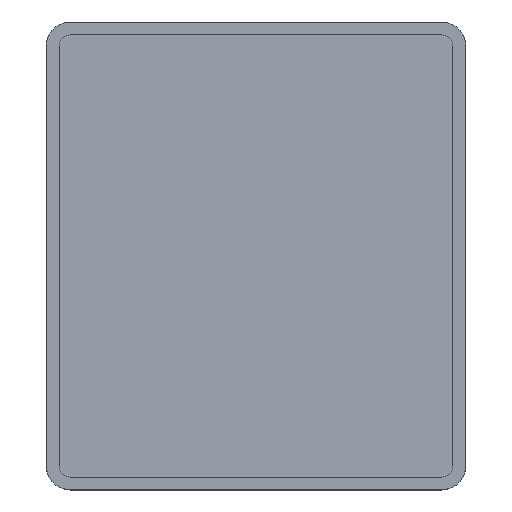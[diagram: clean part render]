
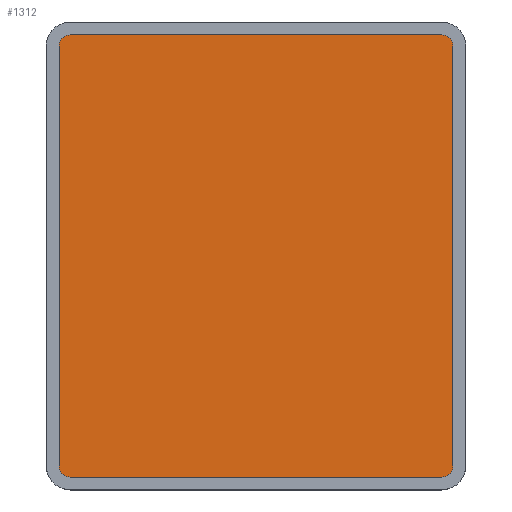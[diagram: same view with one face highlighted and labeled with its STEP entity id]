
A CAD part, top view. The second image highlights one B-rep face of the part: STEP entity #1312.
In plain terms, the highlighted planar face has unit normal (0, 0, 1).
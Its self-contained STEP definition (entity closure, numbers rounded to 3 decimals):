
#359 = CYLINDRICAL_SURFACE('',#360,0.7);
#360 = AXIS2_PLACEMENT_3D('',#361,#362,#363);
#361 = CARTESIAN_POINT('',(1.5,1.5,1.));
#362 = DIRECTION('',(0.,0.,1.));
#363 = DIRECTION('',(-1.,-0.,0.));
#386 = PLANE('',#387);
#387 = AXIS2_PLACEMENT_3D('',#388,#389,#390);
#388 = CARTESIAN_POINT('',(0.8,0.8,1.));
#389 = DIRECTION('',(1.,0.,0.));
#390 = DIRECTION('',(0.,0.,1.));
#414 = CYLINDRICAL_SURFACE('',#415,0.7);
#415 = AXIS2_PLACEMENT_3D('',#416,#417,#418);
#416 = CARTESIAN_POINT('',(1.5,27.6,1.));
#417 = DIRECTION('',(0.,0.,1.));
#418 = DIRECTION('',(-1.,-0.,0.));
#441 = PLANE('',#442);
#442 = AXIS2_PLACEMENT_3D('',#443,#444,#445);
#443 = CARTESIAN_POINT('',(0.8,28.3,1.));
#444 = DIRECTION('',(0.,1.,0.));
#445 = DIRECTION('',(0.,0.,1.));
#469 = CYLINDRICAL_SURFACE('',#470,0.7);
#470 = AXIS2_PLACEMENT_3D('',#471,#472,#473);
#471 = CARTESIAN_POINT('',(24.6,27.6,1.));
#472 = DIRECTION('',(0.,0.,1.));
#473 = DIRECTION('',(1.,0.,-0.));
#496 = PLANE('',#497);
#497 = AXIS2_PLACEMENT_3D('',#498,#499,#500);
#498 = CARTESIAN_POINT('',(25.3,0.8,1.));
#499 = DIRECTION('',(1.,0.,0.));
#500 = DIRECTION('',(0.,0.,1.));
#524 = CYLINDRICAL_SURFACE('',#525,0.7);
#525 = AXIS2_PLACEMENT_3D('',#526,#527,#528);
#526 = CARTESIAN_POINT('',(24.6,1.5,1.));
#527 = DIRECTION('',(0.,0.,1.));
#528 = DIRECTION('',(1.,0.,-0.));
#549 = PLANE('',#550);
#550 = AXIS2_PLACEMENT_3D('',#551,#552,#553);
#551 = CARTESIAN_POINT('',(0.8,0.8,1.));
#552 = DIRECTION('',(0.,1.,0.));
#553 = DIRECTION('',(0.,0.,1.));
#908 = VERTEX_POINT('',#909);
#909 = CARTESIAN_POINT('',(0.8,1.5,1.));
#930 = EDGE_CURVE('',#908,#931,#933,.T.);
#931 = VERTEX_POINT('',#932);
#932 = CARTESIAN_POINT('',(1.5,0.8,1.));
#933 = SURFACE_CURVE('',#934,(#939,#946),.PCURVE_S1.);
#934 = CIRCLE('',#935,0.7);
#935 = AXIS2_PLACEMENT_3D('',#936,#937,#938);
#936 = CARTESIAN_POINT('',(1.5,1.5,1.));
#937 = DIRECTION('',(0.,0.,1.));
#938 = DIRECTION('',(0.,-1.,0.));
#939 = PCURVE('',#359,#940);
#940 = DEFINITIONAL_REPRESENTATION('',(#941),#945);
#941 = LINE('',#942,#943);
#942 = CARTESIAN_POINT('',(-4.712,0.));
#943 = VECTOR('',#944,1.);
#944 = DIRECTION('',(1.,0.));
#945 = ( GEOMETRIC_REPRESENTATION_CONTEXT(2) 
PARAMETRIC_REPRESENTATION_CONTEXT() REPRESENTATION_CONTEXT('2D SPACE',''
  ) );
#946 = PCURVE('',#947,#952);
#947 = PLANE('',#948);
#948 = AXIS2_PLACEMENT_3D('',#949,#950,#951);
#949 = CARTESIAN_POINT('',(0.8,0.8,1.));
#950 = DIRECTION('',(0.,0.,1.));
#951 = DIRECTION('',(1.,0.,0.));
#952 = DEFINITIONAL_REPRESENTATION('',(#953),#957);
#953 = CIRCLE('',#954,0.7);
#954 = AXIS2_PLACEMENT_2D('',#955,#956);
#955 = CARTESIAN_POINT('',(0.7,0.7));
#956 = DIRECTION('',(0.,-1.));
#957 = ( GEOMETRIC_REPRESENTATION_CONTEXT(2) 
PARAMETRIC_REPRESENTATION_CONTEXT() REPRESENTATION_CONTEXT('2D SPACE',''
  ) );
#984 = EDGE_CURVE('',#931,#985,#987,.T.);
#985 = VERTEX_POINT('',#986);
#986 = CARTESIAN_POINT('',(24.6,0.8,1.));
#987 = SURFACE_CURVE('',#988,(#992,#999),.PCURVE_S1.);
#988 = LINE('',#989,#990);
#989 = CARTESIAN_POINT('',(0.8,0.8,1.));
#990 = VECTOR('',#991,1.);
#991 = DIRECTION('',(1.,0.,0.));
#992 = PCURVE('',#549,#993);
#993 = DEFINITIONAL_REPRESENTATION('',(#994),#998);
#994 = LINE('',#995,#996);
#995 = CARTESIAN_POINT('',(0.,0.));
#996 = VECTOR('',#997,1.);
#997 = DIRECTION('',(0.,1.));
#998 = ( GEOMETRIC_REPRESENTATION_CONTEXT(2) 
PARAMETRIC_REPRESENTATION_CONTEXT() REPRESENTATION_CONTEXT('2D SPACE',''
  ) );
#999 = PCURVE('',#947,#1000);
#1000 = DEFINITIONAL_REPRESENTATION('',(#1001),#1005);
#1001 = LINE('',#1002,#1003);
#1002 = CARTESIAN_POINT('',(0.,0.));
#1003 = VECTOR('',#1004,1.);
#1004 = DIRECTION('',(1.,0.));
#1005 = ( GEOMETRIC_REPRESENTATION_CONTEXT(2) 
PARAMETRIC_REPRESENTATION_CONTEXT() REPRESENTATION_CONTEXT('2D SPACE',''
  ) );
#1034 = VERTEX_POINT('',#1035);
#1035 = CARTESIAN_POINT('',(25.3,1.5,1.));
#1056 = EDGE_CURVE('',#1034,#985,#1057,.T.);
#1057 = SURFACE_CURVE('',#1058,(#1063,#1070),.PCURVE_S1.);
#1058 = CIRCLE('',#1059,0.7);
#1059 = AXIS2_PLACEMENT_3D('',#1060,#1061,#1062);
#1060 = CARTESIAN_POINT('',(24.6,1.5,1.));
#1061 = DIRECTION('',(-0.,-0.,-1.));
#1062 = DIRECTION('',(0.,-1.,0.));
#1063 = PCURVE('',#524,#1064);
#1064 = DEFINITIONAL_REPRESENTATION('',(#1065),#1069);
#1065 = LINE('',#1066,#1067);
#1066 = CARTESIAN_POINT('',(4.712,-0.));
#1067 = VECTOR('',#1068,1.);
#1068 = DIRECTION('',(-1.,0.));
#1069 = ( GEOMETRIC_REPRESENTATION_CONTEXT(2) 
PARAMETRIC_REPRESENTATION_CONTEXT() REPRESENTATION_CONTEXT('2D SPACE',''
  ) );
#1070 = PCURVE('',#947,#1071);
#1071 = DEFINITIONAL_REPRESENTATION('',(#1072),#1080);
#1072 = ( BOUNDED_CURVE() B_SPLINE_CURVE(2,(#1073,#1074,#1075,#1076,
#1077,#1078,#1079),.UNSPECIFIED.,.T.,.F.) B_SPLINE_CURVE_WITH_KNOTS((1,2
    ,2,2,2,1),(-2.094,0.,2.094,4.189,
6.283,8.378),.UNSPECIFIED.) CURVE() 
GEOMETRIC_REPRESENTATION_ITEM() RATIONAL_B_SPLINE_CURVE((1.,0.5,1.,0.5,
1.,0.5,1.)) REPRESENTATION_ITEM('') );
#1073 = CARTESIAN_POINT('',(23.8,0.));
#1074 = CARTESIAN_POINT('',(22.588,0.));
#1075 = CARTESIAN_POINT('',(23.194,1.05));
#1076 = CARTESIAN_POINT('',(23.8,2.1));
#1077 = CARTESIAN_POINT('',(24.406,1.05));
#1078 = CARTESIAN_POINT('',(25.012,0.));
#1079 = CARTESIAN_POINT('',(23.8,0.));
#1080 = ( GEOMETRIC_REPRESENTATION_CONTEXT(2) 
PARAMETRIC_REPRESENTATION_CONTEXT() REPRESENTATION_CONTEXT('2D SPACE',''
  ) );
#1089 = EDGE_CURVE('',#1034,#1090,#1092,.T.);
#1090 = VERTEX_POINT('',#1091);
#1091 = CARTESIAN_POINT('',(25.3,27.6,1.));
#1092 = SURFACE_CURVE('',#1093,(#1097,#1104),.PCURVE_S1.);
#1093 = LINE('',#1094,#1095);
#1094 = CARTESIAN_POINT('',(25.3,0.8,1.));
#1095 = VECTOR('',#1096,1.);
#1096 = DIRECTION('',(0.,1.,0.));
#1097 = PCURVE('',#496,#1098);
#1098 = DEFINITIONAL_REPRESENTATION('',(#1099),#1103);
#1099 = LINE('',#1100,#1101);
#1100 = CARTESIAN_POINT('',(0.,0.));
#1101 = VECTOR('',#1102,1.);
#1102 = DIRECTION('',(0.,-1.));
#1103 = ( GEOMETRIC_REPRESENTATION_CONTEXT(2) 
PARAMETRIC_REPRESENTATION_CONTEXT() REPRESENTATION_CONTEXT('2D SPACE',''
  ) );
#1104 = PCURVE('',#947,#1105);
#1105 = DEFINITIONAL_REPRESENTATION('',(#1106),#1110);
#1106 = LINE('',#1107,#1108);
#1107 = CARTESIAN_POINT('',(24.5,0.));
#1108 = VECTOR('',#1109,1.);
#1109 = DIRECTION('',(0.,1.));
#1110 = ( GEOMETRIC_REPRESENTATION_CONTEXT(2) 
PARAMETRIC_REPRESENTATION_CONTEXT() REPRESENTATION_CONTEXT('2D SPACE',''
  ) );
#1137 = EDGE_CURVE('',#1090,#1138,#1140,.T.);
#1138 = VERTEX_POINT('',#1139);
#1139 = CARTESIAN_POINT('',(24.6,28.3,1.));
#1140 = SURFACE_CURVE('',#1141,(#1146,#1153),.PCURVE_S1.);
#1141 = CIRCLE('',#1142,0.7);
#1142 = AXIS2_PLACEMENT_3D('',#1143,#1144,#1145);
#1143 = CARTESIAN_POINT('',(24.6,27.6,1.));
#1144 = DIRECTION('',(0.,0.,1.));
#1145 = DIRECTION('',(0.,-1.,0.));
#1146 = PCURVE('',#469,#1147);
#1147 = DEFINITIONAL_REPRESENTATION('',(#1148),#1152);
#1148 = LINE('',#1149,#1150);
#1149 = CARTESIAN_POINT('',(-1.571,0.));
#1150 = VECTOR('',#1151,1.);
#1151 = DIRECTION('',(1.,0.));
#1152 = ( GEOMETRIC_REPRESENTATION_CONTEXT(2) 
PARAMETRIC_REPRESENTATION_CONTEXT() REPRESENTATION_CONTEXT('2D SPACE',''
  ) );
#1153 = PCURVE('',#947,#1154);
#1154 = DEFINITIONAL_REPRESENTATION('',(#1155),#1159);
#1155 = CIRCLE('',#1156,0.7);
#1156 = AXIS2_PLACEMENT_2D('',#1157,#1158);
#1157 = CARTESIAN_POINT('',(23.8,26.8));
#1158 = DIRECTION('',(0.,-1.));
#1159 = ( GEOMETRIC_REPRESENTATION_CONTEXT(2) 
PARAMETRIC_REPRESENTATION_CONTEXT() REPRESENTATION_CONTEXT('2D SPACE',''
  ) );
#1186 = EDGE_CURVE('',#1187,#1138,#1189,.T.);
#1187 = VERTEX_POINT('',#1188);
#1188 = CARTESIAN_POINT('',(1.5,28.3,1.));
#1189 = SURFACE_CURVE('',#1190,(#1194,#1201),.PCURVE_S1.);
#1190 = LINE('',#1191,#1192);
#1191 = CARTESIAN_POINT('',(0.8,28.3,1.));
#1192 = VECTOR('',#1193,1.);
#1193 = DIRECTION('',(1.,0.,0.));
#1194 = PCURVE('',#441,#1195);
#1195 = DEFINITIONAL_REPRESENTATION('',(#1196),#1200);
#1196 = LINE('',#1197,#1198);
#1197 = CARTESIAN_POINT('',(0.,0.));
#1198 = VECTOR('',#1199,1.);
#1199 = DIRECTION('',(0.,1.));
#1200 = ( GEOMETRIC_REPRESENTATION_CONTEXT(2) 
PARAMETRIC_REPRESENTATION_CONTEXT() REPRESENTATION_CONTEXT('2D SPACE',''
  ) );
#1201 = PCURVE('',#947,#1202);
#1202 = DEFINITIONAL_REPRESENTATION('',(#1203),#1207);
#1203 = LINE('',#1204,#1205);
#1204 = CARTESIAN_POINT('',(0.,27.5));
#1205 = VECTOR('',#1206,1.);
#1206 = DIRECTION('',(1.,0.));
#1207 = ( GEOMETRIC_REPRESENTATION_CONTEXT(2) 
PARAMETRIC_REPRESENTATION_CONTEXT() REPRESENTATION_CONTEXT('2D SPACE',''
  ) );
#1236 = VERTEX_POINT('',#1237);
#1237 = CARTESIAN_POINT('',(0.8,27.6,1.));
#1258 = EDGE_CURVE('',#1236,#1187,#1259,.T.);
#1259 = SURFACE_CURVE('',#1260,(#1265,#1272),.PCURVE_S1.);
#1260 = CIRCLE('',#1261,0.7);
#1261 = AXIS2_PLACEMENT_3D('',#1262,#1263,#1264);
#1262 = CARTESIAN_POINT('',(1.5,27.6,1.));
#1263 = DIRECTION('',(-0.,-0.,-1.));
#1264 = DIRECTION('',(0.,-1.,0.));
#1265 = PCURVE('',#414,#1266);
#1266 = DEFINITIONAL_REPRESENTATION('',(#1267),#1271);
#1267 = LINE('',#1268,#1269);
#1268 = CARTESIAN_POINT('',(1.571,-0.));
#1269 = VECTOR('',#1270,1.);
#1270 = DIRECTION('',(-1.,0.));
#1271 = ( GEOMETRIC_REPRESENTATION_CONTEXT(2) 
PARAMETRIC_REPRESENTATION_CONTEXT() REPRESENTATION_CONTEXT('2D SPACE',''
  ) );
#1272 = PCURVE('',#947,#1273);
#1273 = DEFINITIONAL_REPRESENTATION('',(#1274),#1282);
#1274 = ( BOUNDED_CURVE() B_SPLINE_CURVE(2,(#1275,#1276,#1277,#1278,
#1279,#1280,#1281),.UNSPECIFIED.,.T.,.F.) B_SPLINE_CURVE_WITH_KNOTS((1,2
    ,2,2,2,1),(-2.094,0.,2.094,4.189,
6.283,8.378),.UNSPECIFIED.) CURVE() 
GEOMETRIC_REPRESENTATION_ITEM() RATIONAL_B_SPLINE_CURVE((1.,0.5,1.,0.5,
1.,0.5,1.)) REPRESENTATION_ITEM('') );
#1275 = CARTESIAN_POINT('',(0.7,26.1));
#1276 = CARTESIAN_POINT('',(-0.512,26.1));
#1277 = CARTESIAN_POINT('',(0.094,27.15));
#1278 = CARTESIAN_POINT('',(0.7,28.2));
#1279 = CARTESIAN_POINT('',(1.306,27.15));
#1280 = CARTESIAN_POINT('',(1.912,26.1));
#1281 = CARTESIAN_POINT('',(0.7,26.1));
#1282 = ( GEOMETRIC_REPRESENTATION_CONTEXT(2) 
PARAMETRIC_REPRESENTATION_CONTEXT() REPRESENTATION_CONTEXT('2D SPACE',''
  ) );
#1291 = EDGE_CURVE('',#908,#1236,#1292,.T.);
#1292 = SURFACE_CURVE('',#1293,(#1297,#1304),.PCURVE_S1.);
#1293 = LINE('',#1294,#1295);
#1294 = CARTESIAN_POINT('',(0.8,0.8,1.));
#1295 = VECTOR('',#1296,1.);
#1296 = DIRECTION('',(0.,1.,0.));
#1297 = PCURVE('',#386,#1298);
#1298 = DEFINITIONAL_REPRESENTATION('',(#1299),#1303);
#1299 = LINE('',#1300,#1301);
#1300 = CARTESIAN_POINT('',(0.,0.));
#1301 = VECTOR('',#1302,1.);
#1302 = DIRECTION('',(0.,-1.));
#1303 = ( GEOMETRIC_REPRESENTATION_CONTEXT(2) 
PARAMETRIC_REPRESENTATION_CONTEXT() REPRESENTATION_CONTEXT('2D SPACE',''
  ) );
#1304 = PCURVE('',#947,#1305);
#1305 = DEFINITIONAL_REPRESENTATION('',(#1306),#1310);
#1306 = LINE('',#1307,#1308);
#1307 = CARTESIAN_POINT('',(0.,0.));
#1308 = VECTOR('',#1309,1.);
#1309 = DIRECTION('',(0.,1.));
#1310 = ( GEOMETRIC_REPRESENTATION_CONTEXT(2) 
PARAMETRIC_REPRESENTATION_CONTEXT() REPRESENTATION_CONTEXT('2D SPACE',''
  ) );
#1312 = ADVANCED_FACE('',(#1313),#947,.T.);
#1313 = FACE_BOUND('',#1314,.T.);
#1314 = EDGE_LOOP('',(#1315,#1316,#1317,#1318,#1319,#1320,#1321,#1322));
#1315 = ORIENTED_EDGE('',*,*,#1291,.F.);
#1316 = ORIENTED_EDGE('',*,*,#930,.T.);
#1317 = ORIENTED_EDGE('',*,*,#984,.T.);
#1318 = ORIENTED_EDGE('',*,*,#1056,.F.);
#1319 = ORIENTED_EDGE('',*,*,#1089,.T.);
#1320 = ORIENTED_EDGE('',*,*,#1137,.T.);
#1321 = ORIENTED_EDGE('',*,*,#1186,.F.);
#1322 = ORIENTED_EDGE('',*,*,#1258,.F.);
